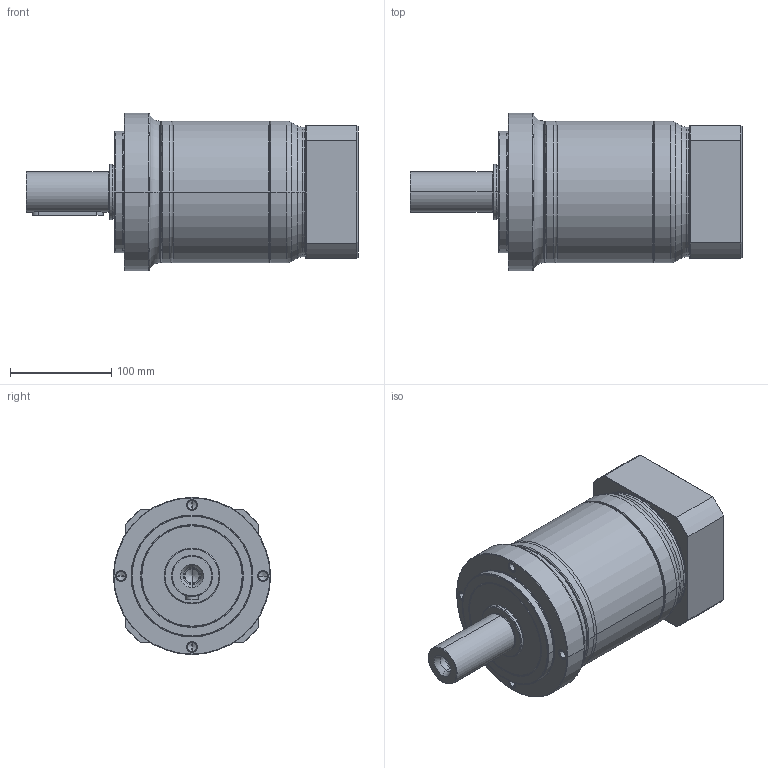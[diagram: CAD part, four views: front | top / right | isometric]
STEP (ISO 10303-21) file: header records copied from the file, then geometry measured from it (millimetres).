
FILE_DESCRIPTION((''),'2;1');
FILE_NAME('PE2-155_2ST_35-P0411800101_ASM','2016-05-03T',('d00435'),(''),'PRO/ENGINEER BY PARAMETRIC TECHNOLOGY CORPORATION, 2008410','PRO/ENGINEER BY PARAMETRIC TECHNOLOGY CORPORATION, 2008410','');
FILE_SCHEMA(('CONFIG_CONTROL_DESIGN'));
Length unit declared in the file: millimetre
Products named in the file (9): P1323510001; P0251500001; P1324500401; P0350501001; P0941504001; P0503800010; P0411800101; P1702600001; PE2-155_2ST_35-P0411800101_ASM
Assembly tree (8 placements, depth 2):
  PE2-155_2ST_35-P0411800101_ASM
    P1323510001
    P0251500001
    P1324500401
    P0350501001
    P0941504001
    P0503800010
    P0411800101
    P1702600001
Bounding box: 327.5 x 155 x 155 mm (x, y, z)
Volume: 2698393.4 mm3; surface area: 398718.3 mm2
Topology: 8 solids, 22 shells, 538 faces, 1199 edges, 706 vertices
Faces by surface type: cylinder 172, cone 148, torus 106, plane 96, bspline 16
Entity records: 19640 total; most frequent: CARTESIAN_POINT 7362, DIRECTION 2835, ORIENTED_EDGE 2270, AXIS2_PLACEMENT_3D 1226, EDGE_CURVE 1163, VERTEX_POINT 706, CIRCLE 677, EDGE_LOOP 619
